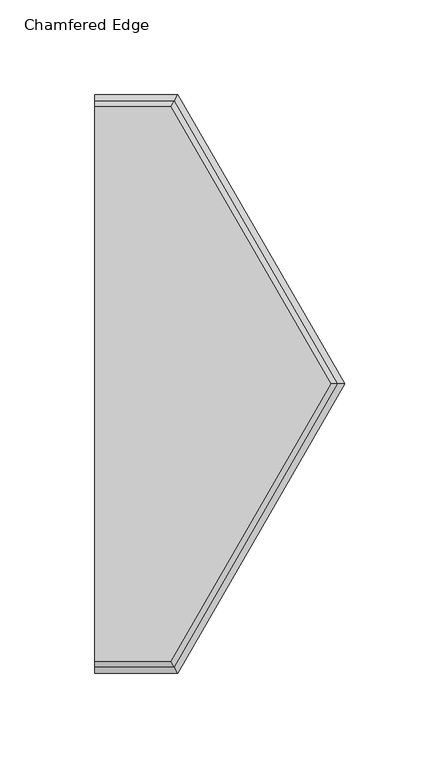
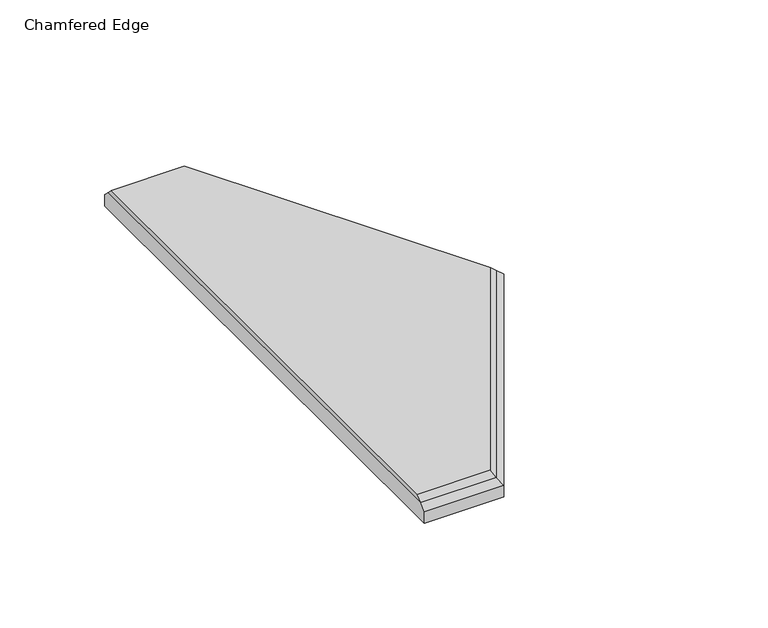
"""IFC4 building model written with IfcOpenShell, lengths in millimetres: proxy geometry, FilzFelt_Hex_Block : Chamfered Edge."""

from ifc_helpers import new_model, si_unit, origin, place, context, project, spatial, faceted_brep, source, transform, mapped, element, save


def chamfered_edge_9c3c0ad3(model_context):
    return source(origin(), model_context, "Body", "Brep", [
        faceted_brep([(44.2024582, -149.0265625, 10.0210937), (44.2024582, 149.0265625, 10.0210937), (86.040526, 149.0265625, 10.0210937), (172.081052, 0.0, 10.0210937), (86.040526, -149.0265625, 10.0210937), (44.2024582, 146.05, 12.9976563), (44.2024582, -146.05, 12.9976563), (84.3220068, -146.05, 12.9976563), (168.6440136, 0.0, 12.9976563), (84.3220068, 146.05, 12.9976563)], [[[0, 1, 2, 3, 4]], [[5, 6, 7, 8, 9]], [[3, 8, 7, 4]], [[8, 3, 2, 9]], [[9, 2, 1, 5]], [[4, 7, 6, 0]], [[1, 0, 6, 5]]]),
        faceted_brep([(175.976362, 0.0, 0.0), (87.988181, -152.4, 0.0), (44.2024582, -152.4, 0.0), (44.2024582, 152.4, 0.0), (87.988181, 152.4, 0.0), (44.2024582, 149.0265625, 10.0210937), (44.2024582, -149.0265625, 10.0210937), (86.040526, -149.0265625, 10.0210937), (172.081052, 0.0, 10.0210937), (86.040526, 149.0265625, 10.0210937), (175.976362, 0.0, 6.6476563), (87.988181, -152.4, 6.6476563), (44.2024582, -152.4, 6.6476562), (44.2024582, 152.4, 6.6476563), (87.988181, 152.4, 6.6476563)], [[[0, 1, 2, 3, 4]], [[5, 6, 7, 8, 9]], [[1, 0, 10, 11]], [[2, 1, 11, 12]], [[4, 3, 13, 14]], [[0, 4, 14, 10]], [[10, 8, 7, 11]], [[8, 10, 14, 9]], [[9, 14, 13, 5]], [[11, 7, 6, 12]], [[3, 2, 12, 6, 5, 13]]]),
    ])


if __name__ == "__main__":
    model = new_model("IFC4")
    model_context = context("Model", 3, world=origin())
    ifc_project = project(units=[si_unit("LENGTHUNIT", "METRE", prefix="MILLI")], contexts=[model_context])
    site = spatial("IfcSite", under=ifc_project)
    building = spatial("IfcBuilding", under=site)
    placement = place(None, origin())
    chamfered_edge_shape = chamfered_edge_9c3c0ad3(model_context)
    element("IfcBuildingElementProxy", 1, Name="FilzFelt_Hex_Block : Chamfered Edge", ObjectType="FilzFelt_Hex_Block : Chamfered Edge", at=placement, inside=building, context=model_context, shape_type="MappedRepresentation", body=[
        mapped(chamfered_edge_shape, transform((0.0, 0.0, 0.0), x_axis=(1.0, 0.0, 0.0), y_axis=(0.0, 1.0, 0.0), z_axis=(0.0, 0.0, 1.0))),
    ])
    save(model, "model.ifc")
